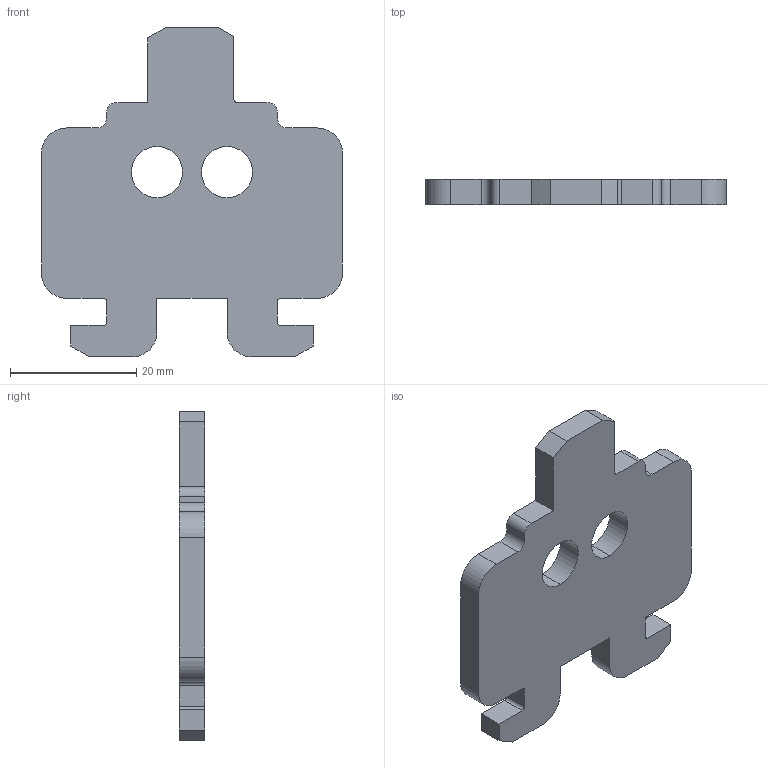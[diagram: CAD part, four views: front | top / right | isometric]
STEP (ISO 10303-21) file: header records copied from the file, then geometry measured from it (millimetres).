
FILE_DESCRIPTION (( 'STEP AP214' ), '1' );
FILE_NAME ('Óñòðîéñòâî áëîêèðîâêè ïîëîæåíèÿ îòêëþ÷åíî OptiMat D630.STEP', '2023-04-03T03:25:26', ( '' ), ( '' ), 'SwSTEP 2.0', 'SolidWorks 2018', '' );
FILE_SCHEMA (( 'AUTOMOTIVE_DESIGN' ));
Length unit declared in the file: millimetre
Products named in the file (1): Óñòðîéñòâî áëîêèðîâêè ïîëîæåíèÿ îòêëþ÷åíî OptiMat D630
Bounding box: 47.7 x 4 x 52.3 mm (x, y, z)
Volume: 6533.4 mm3; surface area: 4360.5 mm2
Topology: 1 solids, 1 shells, 49 faces, 141 edges, 94 vertices
Faces by surface type: plane 30, cylinder 19
Entity records: 1655 total; most frequent: CARTESIAN_POINT 285, ORIENTED_EDGE 282, DIRECTION 279, EDGE_CURVE 141, LINE 103, VECTOR 103, VERTEX_POINT 94, AXIS2_PLACEMENT_3D 88
